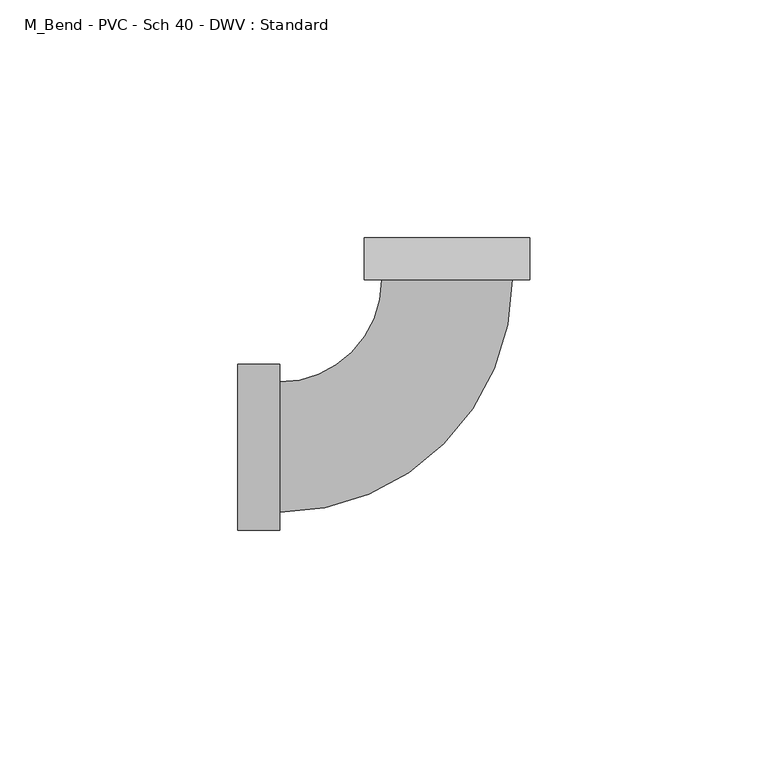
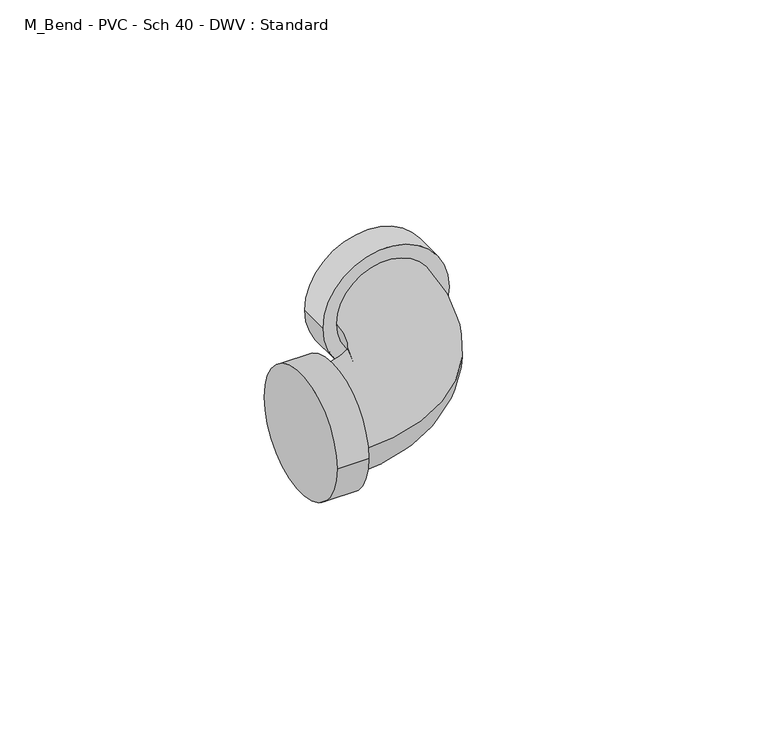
"""IFC4 building model written with IfcOpenShell, lengths in millimetres: pipe fitting geometry, M_Bend - PVC - Sch 40 - DWV : Standard."""

from ifc_helpers import new_model, si_unit, point, frame, origin, place, context, project, spatial, circle_curve, ellipse_curve, trimmed, source, transform, mapped, element, save
from ifc_brep_helpers import plane_surface, cylinder_surface, revolved_surface, advanced_brep


def m_bend_pvc_sch_40_dwv_standard_a6d4ec87(model_context):
    return source(origin(), model_context, "Body", "AdvancedBrep", [
        advanced_brep(
        [(-43.9140625, -17.4371094, 0.0), (-43.9140625, 17.4371094, 0.0), (-35.1640625, -17.4371094, 0.0), (-35.1640625, 17.4371094, 0.0), (-35.1640625, -13.6640625, 0.0), (-35.1640625, 13.6640625, 0.0), (-13.6640625, 35.1640625, 0.0), (13.6640625, 35.1640625, 0.0), (17.4371094, 35.1640625, 0.0), (-17.4371094, 35.1640625, 0.0), (17.4371094, 43.9140625, 0.0), (-17.4371094, 43.9140625, 0.0)],
        [
            (0, 1, circle_curve(frame((-43.9140625, 0.0, 0.0), z_axis=(-1.0, 0.0, 0.0), x_axis=(0.0, 1.0, 0.0)), 17.4371094)),
            (1, 0, circle_curve(frame((-43.9140625, 0.0, 0.0), z_axis=(-1.0, 0.0, 0.0), x_axis=(0.0, 1.0, 0.0)), 17.4371094)),
            (2, 3, circle_curve(frame((-35.1640625, 0.0, 0.0), z_axis=(1.0, 0.0, 0.0), x_axis=(0.0, 1.0, 0.0)), 17.4371094)),
            (3, 2, circle_curve(frame((-35.1640625, 0.0, 0.0), z_axis=(1.0, 0.0, 0.0), x_axis=(0.0, 1.0, 0.0)), 17.4371094)),
            (4, 5, circle_curve(frame((-35.1640625, 0.0, 0.0), z_axis=(-1.0, 0.0, 0.0), x_axis=(0.0, 1.0, 0.0)), 13.6640625)),
            (5, 4, circle_curve(frame((-35.1640625, 0.0, 0.0), z_axis=(-1.0, 0.0, 0.0), x_axis=(0.0, 1.0, 0.0)), 13.6640625)),
            (0, 2),
            (3, 1),
            (6, 5, circle_curve(frame((-35.1640625, 35.1640625, 0.0), z_axis=(0.0, 0.0, -1.0), x_axis=(0.0, -1.0, 0.0)), 21.5)),
            (4, 7, circle_curve(frame((-35.1640625, 35.1640625, 0.0), z_axis=(0.0, 0.0, 1.0), x_axis=(0.0, -1.0, 0.0)), 48.828125)),
            (7, 6, circle_curve(frame((0.0, 35.1640625, 0.0), z_axis=(0.0, -1.0, 0.0), x_axis=(-1.0, 0.0, 0.0)), 13.6640625)),
            (6, 7, circle_curve(frame((0.0, 35.1640625, 0.0), z_axis=(0.0, -1.0, 0.0), x_axis=(-1.0, 0.0, 0.0)), 13.6640625)),
            (8, 9, circle_curve(frame((0.0, 35.1640625, 0.0), z_axis=(0.0, -1.0, 0.0), x_axis=(-1.0, 0.0, 0.0)), 17.4371094)),
            (9, 8, circle_curve(frame((0.0, 35.1640625, 0.0), z_axis=(0.0, -1.0, 0.0), x_axis=(-1.0, 0.0, 0.0)), 17.4371094)),
            (10, 11, circle_curve(frame((0.0, 43.9140625, 0.0), z_axis=(0.0, 1.0, 0.0), x_axis=(-1.0, 0.0, 0.0)), 17.4371094)),
            (11, 10, circle_curve(frame((0.0, 43.9140625, 0.0), z_axis=(0.0, 1.0, 0.0), x_axis=(-1.0, 0.0, 0.0)), 17.4371094)),
            (8, 10),
            (11, 9),
        ],
        [
            plane_surface(frame((-43.9140625, 0.0, 0.0), z_axis=(-1.0, 0.0, 0.0), x_axis=(0.0, 0.0, 1.0))),
            plane_surface(frame((-35.1640625, 0.0, 0.0), z_axis=(1.0, 0.0, 0.0), x_axis=(0.0, 0.0, 1.0))),
            cylinder_surface(frame((-43.9140625, 0.0, 0.0), z_axis=(-1.0, 0.0, 0.0), x_axis=(0.0, 1.0, 0.0)), 17.4371094),
            revolved_surface(trimmed(ellipse_curve(frame((-35.1640625, 0.0, 0.0), z_axis=(-1.0, 0.0, 0.0), x_axis=(0.0, 1.0, 0.0)), 13.6640625, 13.6640625), [point((-35.1640625, -13.6640625, 0.0))], [point((-35.1640625, 13.6640625, 0.0))], True, "CARTESIAN"), (-35.1640625, 35.1640625, 0.0), (0.0, 0.0, 1.0)),
            revolved_surface(trimmed(ellipse_curve(frame((-35.1640625, 0.0, 0.0), z_axis=(-1.0, 0.0, 0.0), x_axis=(0.0, 1.0, 0.0)), 13.6640625, 13.6640625), [point((-35.1640625, 13.6640625, 0.0))], [point((-35.1640625, -13.6640625, 0.0))], True, "CARTESIAN"), (-35.1640625, 35.1640625, 0.0), (0.0, 0.0, 1.0)),
            plane_surface(frame((0.0, 35.1640625, 0.0), z_axis=(0.0, -1.0, 0.0), x_axis=(0.0, 0.0, 1.0))),
            plane_surface(frame((0.0, 43.9140625, 0.0), z_axis=(0.0, 1.0, 0.0), x_axis=(0.0, 0.0, 1.0))),
            cylinder_surface(frame((0.0, 35.1640625, 0.0), z_axis=(0.0, -1.0, 0.0), x_axis=(-1.0, 0.0, 0.0)), 17.4371094),
        ],
        [
            (0, [[1, 2]]),
            (1, [[3, 4], [5, 6]]),
            (2, [[-1, 7, -4, 8]]),
            (2, [[-2, -8, -3, -7]]),
            (3, [[9, -5, 10, 11]]),
            (4, [[-9, 12, -10, -6]]),
            (5, [[13, 14], [-11, -12]]),
            (6, [[15, 16]]),
            (7, [[-13, 17, -16, 18]]),
            (7, [[-14, -18, -15, -17]]),
        ],
    ),
    ])


if __name__ == "__main__":
    model = new_model("IFC4")
    model_context = context("Model", 3, world=origin())
    ifc_project = project(units=[si_unit("LENGTHUNIT", "METRE", prefix="MILLI")], contexts=[model_context])
    site = spatial("IfcSite", under=ifc_project)
    building = spatial("IfcBuilding", under=site)
    placement = place(None, origin())
    m_bend_pvc_sch_40_dwv_standard_shape = m_bend_pvc_sch_40_dwv_standard_a6d4ec87(model_context)
    element("IfcPipeFitting", 1, ObjectType="M_Bend - PVC - Sch 40 - DWV : Standard", at=placement, inside=building, context=model_context, shape_type="MappedRepresentation", body=[
        mapped(m_bend_pvc_sch_40_dwv_standard_shape, transform((0.0, 0.0, 0.0), x_axis=(1.0, 0.0, 0.0), y_axis=(0.0, 1.0, 0.0), z_axis=(0.0, 0.0, 1.0))),
    ])
    save(model, "model.ifc")
